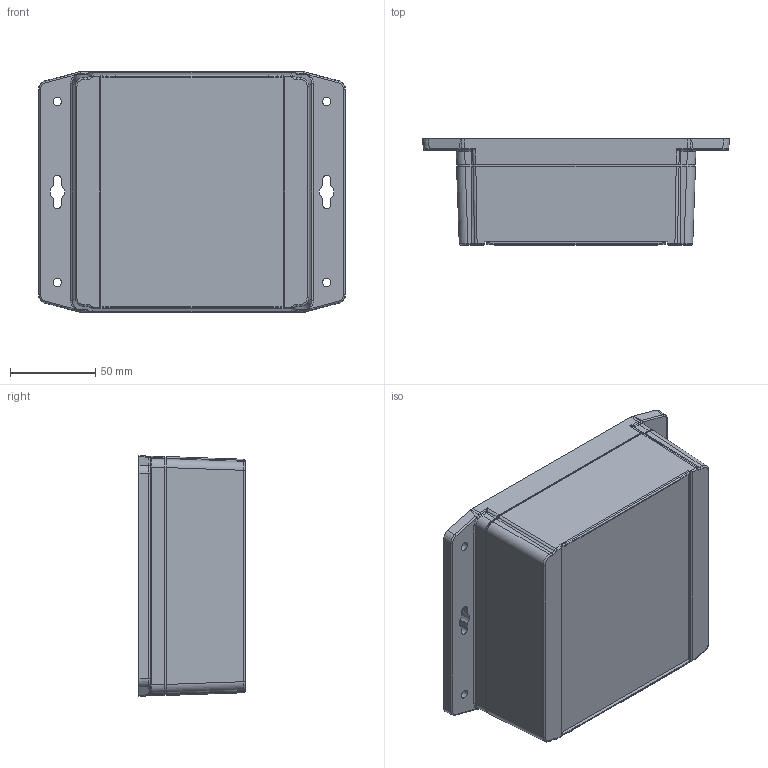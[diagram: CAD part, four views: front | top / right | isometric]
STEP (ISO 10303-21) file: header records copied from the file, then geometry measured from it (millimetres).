
FILE_DESCRIPTION(/* description */ (''),/* implementation_level */ '2;1');
FILE_NAME(/* name */ 'E:\Eng\Customer Service\Drawings\1555\Workgroup\1555 Flanged Series\1555QF\1555QF 42.stp',/* time_stamp */ '2022-02-10T15:57:33-05:00',/* author */ ('mbeerman'),/* organization */ (''),/* preprocessor_version */ 'ST-DEVELOPER v18.1',/* originating_system */ 'Autodesk Inventor 2022',/* authorisation */ '');
FILE_SCHEMA (('AUTOMOTIVE_DESIGN { 1 0 10303 214 3 1 1 }'));
Products named in the file (6): 1555QF 42; 1555QF42 Box; 1555QF Lid; IN-M4 (insert M4-0.7X5.75mm SS) KNURLS; SC576 (screw M4-0.7X 20mm PN); gasket
Assembly tree (11 placements, depth 2):
  1555QF 42
    1555QF42 Box
    1555QF Lid
    IN-M4 (insert M4-0.7X5.75mm SS) KNURLS  x4
    SC576 (screw M4-0.7X 20mm PN)  x4
    gasket
Bounding box: 180 x 62.2 x 141.05 mm (x, y, z)
Volume: 266477.2 mm3; surface area: 178192 mm2
Topology: 11 solids, 11 shells, 2415 faces, 6146 edges, 3884 vertices
Faces by surface type: plane 779, bspline 725, cylinder 505, cone 214, torus 120, sphere 72
Full cylindrical faces by diameter (mm): 3.251 x4, 3.5 x4, 3.88 x4, 5.334 x4, 5.537 x8, 5.664 x4, 7 x4, 10 x1
Entity records: 65709 total; most frequent: CARTESIAN_POINT 22102, ORIENTED_EDGE 9534, DIRECTION 8004, EDGE_CURVE 4767, VERTEX_POINT 2981, AXIS2_PLACEMENT_3D 2855, LINE 2294, VECTOR 2294
